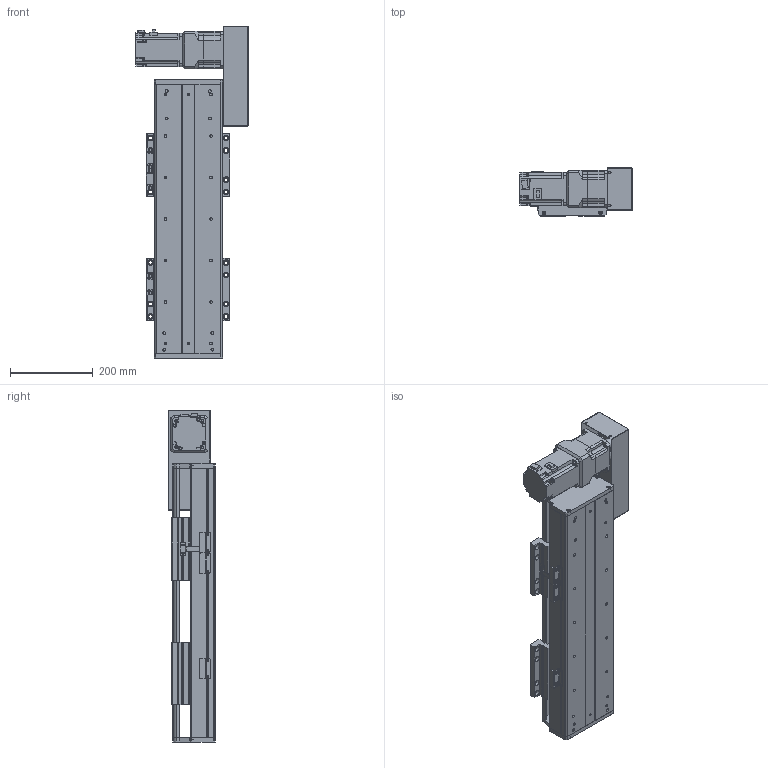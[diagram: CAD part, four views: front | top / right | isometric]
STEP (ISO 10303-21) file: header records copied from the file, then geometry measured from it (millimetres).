
FILE_DESCRIPTION(/* description */ (''),/* implementation_level */ '2;1');
FILE_NAME(/* name */ 'C:\Users\PC\Desktop\3D도면\STEP\DSB165-R7G-W0300-L.stp',/* time_stamp */ '2018-06-25T14:35:56+09:00',/* author */ ('PC'),/* organization */ (''),/* preprocessor_version */ 'ST-DEVELOPER v16.5',/* originating_system */ 'Autodesk Inventor 2017',/* authorisation */ '');
FILE_SCHEMA (('AUTOMOTIVE_DESIGN { 1 0 10303 214 3 1 1 }'));
Length unit declared in the file: millimetre
Products named in the file (12): DSB165-L7G-W0300-R_MIR; DSB165-BASE-L_MIR; hg-kr73__MIR; ab0901-p0401300102_MIR; 11-DSB165 BELT COVER_MIR; 12-DSB165-REAR COVER_MIR; 14-DSB165-FRONT COVER_MIR; DSB165-UP COVER_MIR; DSB165-TABLE(MSB20S)_MIR; DSR165-SENSOR DOG_MIR; pm-y65_step_MIR; SENSOR BRACKET(EE-SX674A)_MIR
Assembly tree (16 placements, depth 2):
  DSB165-L7G-W0300-R_MIR
    DSB165-BASE-L_MIR
    hg-kr73__MIR
    ab0901-p0401300102_MIR
    11-DSB165 BELT COVER_MIR
    12-DSB165-REAR COVER_MIR
    14-DSB165-FRONT COVER_MIR
    DSB165-UP COVER_MIR
    DSB165-TABLE(MSB20S)_MIR  x2
    DSR165-SENSOR DOG_MIR
    pm-y65_step_MIR  x3
    SENSOR BRACKET(EE-SX674A)_MIR  x3
Bounding box: 270 x 115 x 800 mm (x, y, z)
Volume: 5669023.6 mm3; surface area: 1291620 mm2
Topology: 17 solids, 17 shells, 1625 faces, 4376 edges, 2890 vertices
Faces by surface type: plane 921, cylinder 598, cone 94, sphere 8, torus 4
Full cylindrical faces by diameter (mm): 2.459 x20, 3.5 x6, 4.134 x34, 4.5 x18, 5 x27, 5.5 x36, 5.9 x4, 6 x4, 6.6 x14, 6.647 x30, 6.8 x1, 7 x4, 7.6 x4, 8.4 x1, 8.5 x24, 8.7 x1, 9.5 x32, 11 x6, 14 x16, 19 x1, 22 x1, 24 x1, 25 x1, 28 x1, 67 x1, 70 x2, 80 x1
Entity records: 35248 total; most frequent: DIRECTION 6090, CARTESIAN_POINT 5943, ORIENTED_EDGE 5450, EDGE_CURVE 2725, AXIS2_PLACEMENT_3D 2215, VERTEX_POINT 1930, LINE 1660, VECTOR 1660
